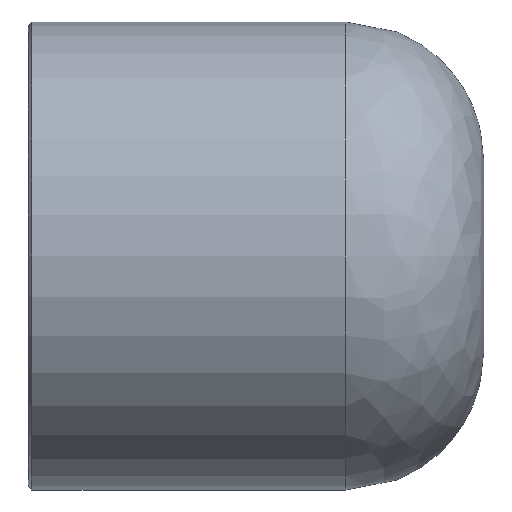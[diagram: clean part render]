
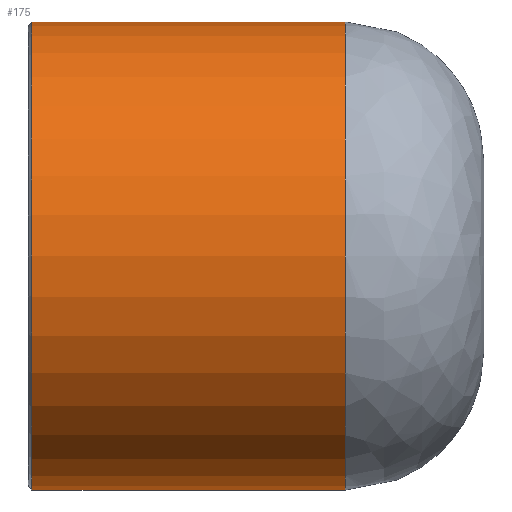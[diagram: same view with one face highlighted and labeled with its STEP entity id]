
A CAD part, front view. The second image highlights one B-rep face of the part: STEP entity #175.
In plain terms, the highlighted cylindrical face has radius 12.688 mm (diameter 25.375 mm), a full revolution.
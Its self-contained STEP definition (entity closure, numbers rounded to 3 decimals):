
#144=CARTESIAN_POINT('',(0.2,12.688,0.));
#145=VERTEX_POINT('',#144);
#146=CARTESIAN_POINT('',(0.2,0.0,0.0));
#147=DIRECTION('',(-1.0,0.0,0.0));
#148=DIRECTION('',(0.0,-1.0,0.0));
#149=AXIS2_PLACEMENT_3D('',#146,#147,#148);
#150=CIRCLE('',#149,12.688);
#151=EDGE_CURVE('',#145,#145,#150,.T.);
#156=CARTESIAN_POINT('',(8.6,0.0,0.0));
#157=DIRECTION('',(1.0,0.0,0.0));
#158=DIRECTION('',(0.0,1.0,0.0));
#159=AXIS2_PLACEMENT_3D('',#156,#157,#158);
#160=CYLINDRICAL_SURFACE('',#159,12.688);
#161=CARTESIAN_POINT('',(17.2,12.688,0.0));
#162=VERTEX_POINT('',#161);
#163=CARTESIAN_POINT('',(17.2,0.0,0.0));
#164=DIRECTION('',(1.0,0.0,0.0));
#165=DIRECTION('',(0.0,1.0,0.0));
#166=AXIS2_PLACEMENT_3D('',#163,#164,#165);
#167=CIRCLE('',#166,12.688);
#168=EDGE_CURVE('',#162,#162,#167,.T.);
#169=ORIENTED_EDGE('',*,*,#168,.F.);
#170=EDGE_LOOP('',(#169));
#171=FACE_OUTER_BOUND('',#170,.T.);
#172=ORIENTED_EDGE('',*,*,#151,.F.);
#173=EDGE_LOOP('',(#172));
#174=FACE_BOUND('',#173,.T.);
#175=ADVANCED_FACE('',(#171,#174),#160,.T.);
